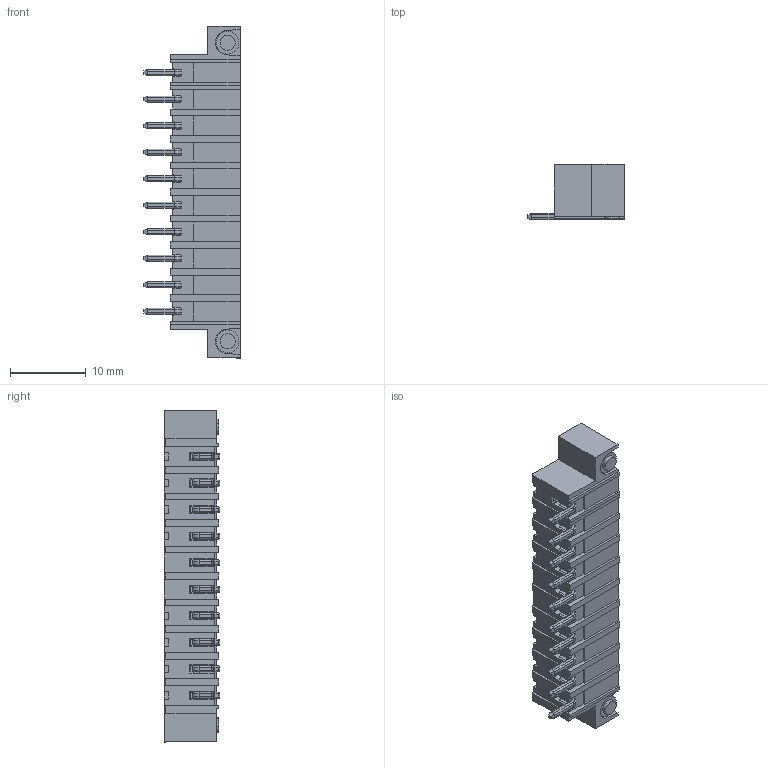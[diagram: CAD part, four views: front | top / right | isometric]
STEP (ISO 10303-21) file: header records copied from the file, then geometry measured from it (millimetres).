
FILE_DESCRIPTION (( 'STEP AP214' ), '1' );
FILE_NAME ('110-M-216-SMD-10.STEP', '2016-12-06T15:09:31', ( '' ), ( '' ), 'SwSTEP 2.0', 'SolidWorks 2016', '' );
FILE_SCHEMA (( 'AUTOMOTIVE_DESIGN' ));
Length unit declared in the file: millimetre
Products named in the file (1): 110-M-216-SMD-10
Bounding box: 12.7 x 7.3 x 43.8 mm (x, y, z)
Volume: 1319.6 mm3; surface area: 3548.9 mm2
Topology: 1 solids, 1 shells, 1377 faces, 3591 edges, 2244 vertices
Faces by surface type: plane 935, cylinder 310, cone 72, bspline 60
Entity records: 45446 total; most frequent: CARTESIAN_POINT 14342, ORIENTED_EDGE 7182, DIRECTION 5291, EDGE_CURVE 3591, VERTEX_POINT 2244, LINE 2111, VECTOR 2111, AXIS2_PLACEMENT_3D 1590
